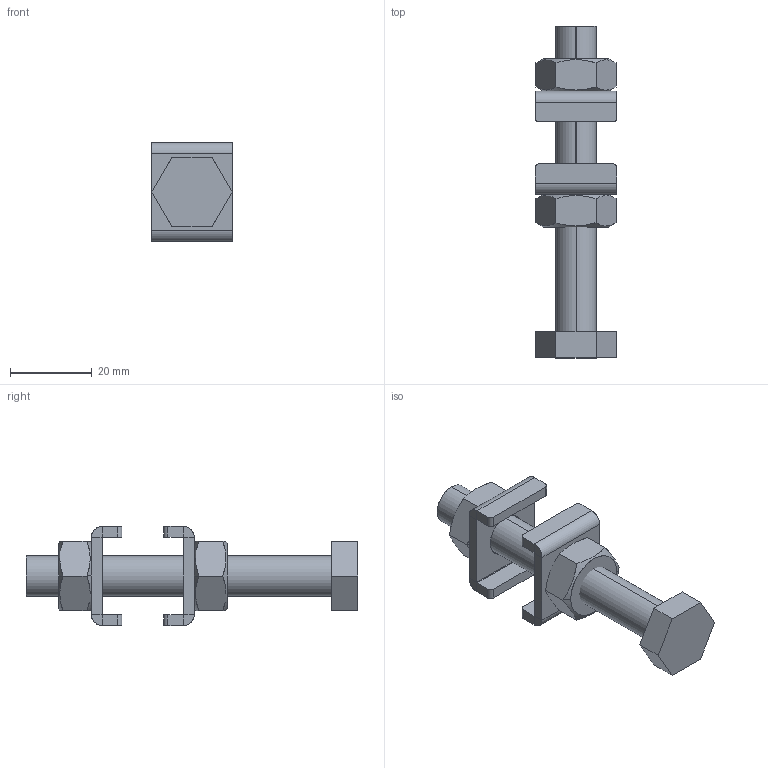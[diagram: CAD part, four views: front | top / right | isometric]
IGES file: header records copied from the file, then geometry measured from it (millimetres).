
Start section: SolidWorks IGES file using analytic representation for surfaces
Global section: file name: C:\Projetos\Ponteiras\PS\PS-M10.IGS; native system: SolidWorks 2011; preprocessor: SolidWorks 2011; author: Usuario; date: 110520.171424; units: millimetre
Bounding box: 20 x 81.4 x 24.3 mm (x, y, z)
Surface area: 8254.7 mm2 (no closed solid volume)
Topology: 0 solids, 0 shells, 103 faces, 1380 edges, 1380 vertices
Faces by surface type: bspline 61, revolution 42
